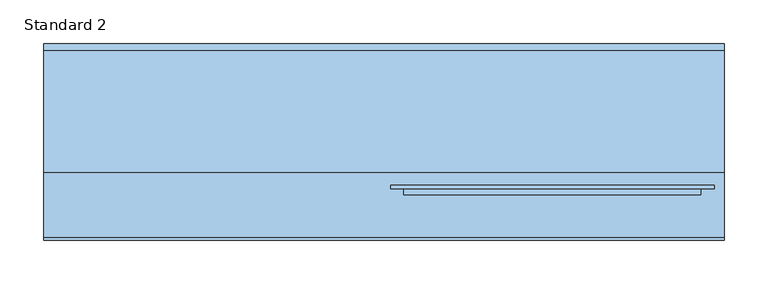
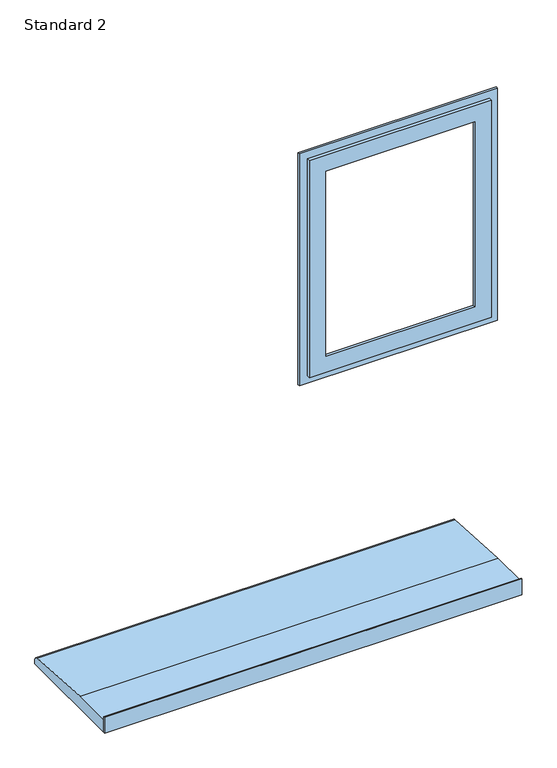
"""IFC4 building model written with IfcOpenShell, lengths in millimetres: window geometry, SMARTS_AlithermHeritage : Standard 2."""

from ifc_helpers import new_model, si_unit, point, frame, frame_2d, origin, place, context, project, spatial, polyline, circle_curve, ellipse_curve, trimmed, segment, composite_curve, outline, extrude, source, transform, mapped, element, save
from ifc_brep_helpers import plane_surface, cylinder_surface, revolved_surface, advanced_brep


def standard_2_6696740c(model_context):
    return source(origin(), model_context, "Body", "SolidModel", [
        advanced_brep(
        [(54.0, 98.0798432, 1532.0), (54.0, 92.8798432, 1532.0), (54.0, 92.8798432, 1166.5), (54.0, 98.0798432, 1166.5), (332.0, 92.8798432, 1166.5), (332.0, 98.0798432, 1166.5), (332.0, 92.8798432, 1532.0), (332.0, 98.0798432, 1532.0), (7.8, 99.2798432, 1578.2), (7.8, 103.2798432, 1578.2), (7.8, 103.2798432, 1120.3), (7.8, 99.2798432, 1120.3), (378.2, 103.2798432, 1120.3), (378.2, 99.2798432, 1120.3), (378.2, 103.2798432, 1578.2), (378.2, 99.2798432, 1578.2), (22.8532343, 99.2798432, 1563.1467657), (363.1467657, 99.2798432, 1563.1467657), (363.1467657, 99.2798432, 1135.3532343), (22.8532343, 99.2798432, 1135.3532343), (36.8, 103.2798432, 1149.3), (349.2, 103.2798432, 1149.3), (349.2, 103.2798432, 1549.2), (36.8, 103.2798432, 1549.2), (22.8532343, 92.8798432, 1563.1467657), (22.8532343, 92.8798432, 1135.3532343), (363.1467657, 92.8798432, 1135.3532343), (363.1467657, 92.8798432, 1563.1467657), (38.8, 101.2798432, 1547.2), (38.8, 100.0798432, 1547.2), (38.8, 100.0798432, 1151.3), (38.8, 101.2798432, 1151.3), (40.8, 98.0798432, 1545.2), (40.8, 98.0798432, 1153.3), (347.2, 100.0798432, 1151.3), (347.2, 101.2798432, 1151.3), (345.2, 98.0798432, 1153.3), (347.2, 100.0798432, 1547.2), (347.2, 101.2798432, 1547.2), (345.2, 98.0798432, 1545.2)],
        [
            (0, 1),
            (1, 2),
            (2, 3),
            (3, 0),
            (2, 4),
            (4, 5),
            (5, 3),
            (4, 6),
            (6, 7),
            (7, 5),
            (6, 1),
            (0, 7),
            (8, 9),
            (9, 10),
            (10, 11),
            (11, 8),
            (10, 12),
            (12, 13),
            (13, 11),
            (12, 14),
            (14, 15),
            (15, 13),
            (15, 8),
            (16, 17),
            (17, 18),
            (18, 19),
            (19, 16),
            (14, 9),
            (20, 21),
            (21, 22),
            (22, 23),
            (23, 20),
            (24, 16),
            (19, 25),
            (25, 24),
            (18, 26),
            (26, 25),
            (17, 27),
            (27, 26),
            (27, 24),
            (28, 29),
            (29, 30),
            (30, 31),
            (31, 28),
            (29, 32, ellipse_curve(frame((40.8, 100.0798432, 1545.2), z_axis=(0.7071067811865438, 0.0, 0.7071067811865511), x_axis=(0.707106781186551, 0.0, -0.7071067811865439)), 2.8284271, 2.0)),
            (32, 33),
            (33, 30, ellipse_curve(frame((40.8, 100.0798432, 1153.3), z_axis=(0.7071067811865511, 0.0, -0.7071067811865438), x_axis=(-0.7071067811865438, 0.0, -0.7071067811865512)), 2.8284271, 2.0)),
            (30, 34),
            (34, 35),
            (35, 31),
            (33, 36),
            (36, 34, ellipse_curve(frame((345.2, 100.0798432, 1153.3), z_axis=(0.7071067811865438, 0.0, 0.7071067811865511), x_axis=(0.7071067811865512, 0.0, -0.7071067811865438)), 2.8284271, 2.0)),
            (34, 37),
            (37, 38),
            (38, 35),
            (36, 39),
            (39, 37, ellipse_curve(frame((345.2, 100.0798432, 1545.2), z_axis=(-0.7071067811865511, 0.0, 0.7071067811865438), x_axis=(0.7071067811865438, 0.0, 0.7071067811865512)), 2.8284271, 2.0)),
            (32, 39),
            (37, 29),
            (28, 38),
            (23, 28, ellipse_curve(frame((36.8, 101.2798432, 1549.2), z_axis=(-0.7071067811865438, 0.0, -0.7071067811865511), x_axis=(-0.707106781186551, 0.0, 0.7071067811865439)), 2.8284271, 2.0)),
            (31, 20, ellipse_curve(frame((36.8, 101.2798432, 1149.3), z_axis=(-0.7071067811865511, 0.0, 0.7071067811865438), x_axis=(0.7071067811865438, 0.0, 0.7071067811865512)), 2.8284271, 2.0)),
            (35, 21, ellipse_curve(frame((349.2, 101.2798432, 1149.3), z_axis=(-0.7071067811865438, 0.0, -0.7071067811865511), x_axis=(-0.7071067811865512, 0.0, 0.7071067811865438)), 2.8284271, 2.0)),
            (38, 22, ellipse_curve(frame((349.2, 101.2798432, 1549.2), z_axis=(0.7071067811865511, 0.0, -0.7071067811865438), x_axis=(-0.7071067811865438, 0.0, -0.7071067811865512)), 2.8284271, 2.0)),
        ],
        [
            plane_surface(frame((54.0, 92.8798432, 1532.0), z_axis=(1.0, 0.0, 0.0), x_axis=(0.0, 0.0, -1.0))),
            plane_surface(frame((54.0, 92.8798432, 1166.5), z_axis=(0.0, 0.0, 1.0), x_axis=(1.0, 0.0, 0.0))),
            plane_surface(frame((332.0, 92.8798432, 1166.5), z_axis=(-1.0, 0.0, 0.0), x_axis=(0.0, 0.0, 1.0))),
            plane_surface(frame((332.0, 92.8798432, 1532.0), z_axis=(0.0, 0.0, -1.0), x_axis=(-1.0, 0.0, 0.0))),
            plane_surface(frame((7.8, 103.2798432, 1578.2), z_axis=(-1.0, 0.0, 0.0), x_axis=(0.0, 0.0, -1.0))),
            plane_surface(frame((7.8, 103.2798432, 1120.3), z_axis=(0.0, 0.0, -1.0), x_axis=(1.0, 0.0, 0.0))),
            plane_surface(frame((378.2, 103.2798432, 1120.3), z_axis=(1.0, 0.0, 0.0), x_axis=(0.0, 0.0, 1.0))),
            plane_surface(frame((378.2, 99.2798432, 1578.2), z_axis=(0.0, -1.0, 0.0), x_axis=(-1.0, 0.0, 0.0))),
            plane_surface(frame((378.2, 103.2798432, 1578.2), z_axis=(0.0, 0.0, 1.0), x_axis=(-1.0, 0.0, 0.0))),
            plane_surface(frame((349.2, 103.2798432, 1549.2), z_axis=(0.0, 1.0, 0.0), x_axis=(-1.0, 0.0, 0.0))),
            plane_surface(frame((22.8532343, 99.2798432, 1563.1467657), z_axis=(-1.0, 0.0, 0.0), x_axis=(0.0, 0.0, -1.0))),
            plane_surface(frame((22.8532343, 99.2798432, 1135.3532343), z_axis=(0.0, 0.0, -1.0), x_axis=(1.0, 0.0, 0.0))),
            plane_surface(frame((363.1467657, 99.2798432, 1135.3532343), z_axis=(1.0, 0.0, 0.0), x_axis=(0.0, 0.0, 1.0))),
            plane_surface(frame((363.1467657, 92.8798432, 1563.1467657), z_axis=(0.0, -1.0, 0.0), x_axis=(-1.0, 0.0, 0.0))),
            plane_surface(frame((363.1467657, 99.2798432, 1563.1467657), z_axis=(0.0, 0.0, 1.0), x_axis=(-1.0, 0.0, 0.0))),
            plane_surface(frame((38.8, 100.0798432, 1547.2), z_axis=(1.0, 0.0, 0.0), x_axis=(0.0, 0.0, -1.0))),
            revolved_surface(polyline([(38.8, 100.0798432, 1151.3), (38.8, 100.0798432, 1547.2)]), (40.8, 100.0798432, 1557.0), (0.0, 0.0, -1.0)),
            plane_surface(frame((38.8, 100.0798432, 1151.3), z_axis=(0.0, 0.0, 1.0), x_axis=(1.0, 0.0, 0.0))),
            revolved_surface(polyline([(347.2, 100.0798432, 1151.3), (38.8, 100.0798432, 1151.3)]), (29.0, 100.0798432, 1153.3), (1.0, 0.0, 0.0)),
            plane_surface(frame((347.2, 100.0798432, 1151.3), z_axis=(-1.0, 0.0, 0.0), x_axis=(0.0, 0.0, 1.0))),
            revolved_surface(polyline([(347.2, 100.0798432, 1547.2), (347.2, 100.0798432, 1151.3)]), (345.2, 100.0798432, 1141.5), (0.0, 0.0, 1.0)),
            plane_surface(frame((332.0, 98.0798432, 1532.0), z_axis=(0.0, 1.0, 0.0), x_axis=(-1.0, 0.0, 0.0))),
            plane_surface(frame((347.2, 100.0798432, 1547.2), z_axis=(0.0, 0.0, -1.0), x_axis=(-1.0, 0.0, 0.0))),
            revolved_surface(polyline([(38.80000000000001, 100.0798432, 1547.2), (347.2, 100.0798432, 1547.2)]), (357.0, 100.0798432, 1545.2), (-1.0, 0.0, 0.0)),
            cylinder_surface(frame((36.8, 101.2798432, 1557.0), z_axis=(0.0, 0.0, 1.0), x_axis=(-1.0, 0.0, 0.0)), 2.0),
            cylinder_surface(frame((29.0, 101.2798432, 1149.3), z_axis=(-1.0, 0.0, 0.0), x_axis=(0.0, 0.0, -1.0)), 2.0),
            cylinder_surface(frame((349.2, 101.2798432, 1141.5), z_axis=(0.0, 0.0, -1.0), x_axis=(1.0, 0.0, 0.0)), 2.0),
            cylinder_surface(frame((357.0, 101.2798432, 1549.2), z_axis=(1.0, 0.0, 0.0), x_axis=(0.0, 0.0, 1.0)), 2.0),
        ],
        [
            (0, [[1, 2, 3, 4]]),
            (1, [[-3, 5, 6, 7]]),
            (2, [[-6, 8, 9, 10]]),
            (3, [[-9, 11, -1, 12]]),
            (4, [[13, 14, 15, 16]]),
            (5, [[-15, 17, 18, 19]]),
            (6, [[-18, 20, 21, 22]]),
            (7, [[-19, -22, 23, -16], [24, 25, 26, 27]]),
            (8, [[-21, 28, -13, -23]]),
            (9, [[-28, -20, -17, -14], [29, 30, 31, 32]]),
            (10, [[33, -27, 34, 35]]),
            (11, [[-34, -26, 36, 37]]),
            (12, [[-36, -25, 38, 39]]),
            (13, [[-37, -39, 40, -35], [-11, -8, -5, -2]]),
            (14, [[-38, -24, -33, -40]]),
            (15, [[41, 42, 43, 44]]),
            (16, [[45, 46, 47, -42]]),
            (17, [[-43, 48, 49, 50]]),
            (18, [[-47, 51, 52, -48]]),
            (19, [[-49, 53, 54, 55]]),
            (20, [[-52, 56, 57, -53]]),
            (21, [[58, -56, -51, -46], [-7, -10, -12, -4]]),
            (22, [[-54, 59, -41, 60]]),
            (23, [[-57, -58, -45, -59]]),
            (24, [[61, -44, 62, -32]]),
            (25, [[-62, -50, 63, -29]]),
            (26, [[-63, -55, 64, -30]]),
            (27, [[-64, -60, -61, -31]]),
        ],
    ),
        extrude(outline(polyline([(390.0, 43.2798432), (390.0, 40.7798432), (-390.0, 40.7798432), (-390.0, 43.2798432), (390.0, 43.2798432)])), frame((0.0, 0.0, 610.0), z_axis=(0.0, 0.0, 1.0), x_axis=(1.0, 0.0, 0.0)), (0.0, 0.0, 1.0), 31.0),
        extrude(outline(composite_curve([segment(polyline([(265.7798432, 610.0), (43.2798432, 610.0), (43.2798432, 635.0), (118.7798432, 635.0), (258.4770891, 625.9276664)]), True, "CONTINUOUS"), segment(trimmed(circle_curve(frame_2d((257.7798432, 617.9581088)), 8.0), [point((258.4770891, 625.9276664))], [point((265.7798432, 617.9581088))], False, "CARTESIAN"), True, "CONTINUOUS"), segment(polyline([(265.7798432, 617.9581088), (265.7798432, 610.0)]), True, "CONTINUOUS")], self_intersect=False)), frame((-390.0, 0.0, 0.0), z_axis=(1.0, 0.0, 0.0), x_axis=(0.0, 1.0, 0.0)), (0.0, 0.0, 1.0), 780.0),
    ])


if __name__ == "__main__":
    model = new_model("IFC4")
    model_context = context("Model", 3, world=origin())
    ifc_project = project(units=[si_unit("LENGTHUNIT", "METRE", prefix="MILLI")], contexts=[model_context])
    site = spatial("IfcSite", under=ifc_project)
    building = spatial("IfcBuilding", under=site)
    placement = place(None, origin())
    standard_2_shape = standard_2_6696740c(model_context)
    element("IfcWindow", 1, ObjectType="SMARTS_AlithermHeritage : Standard 2", at=placement, inside=building, context=model_context, shape_type="MappedRepresentation", body=[
        mapped(standard_2_shape, transform((0.0, 0.0, 0.0), x_axis=(1.0, 0.0, 0.0), y_axis=(0.0, 1.0, 0.0), z_axis=(0.0, 0.0, 1.0))),
    ])
    save(model, "model.ifc")
